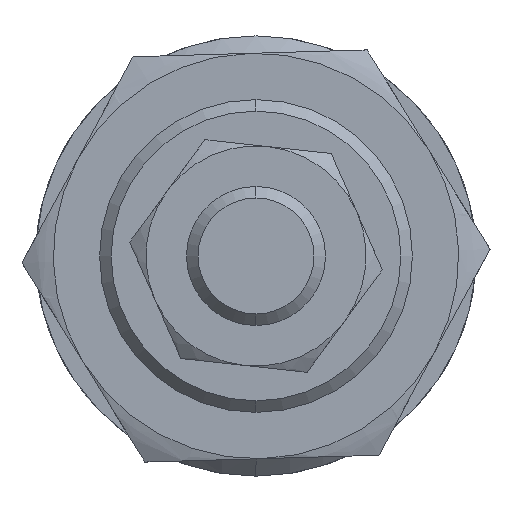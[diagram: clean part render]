
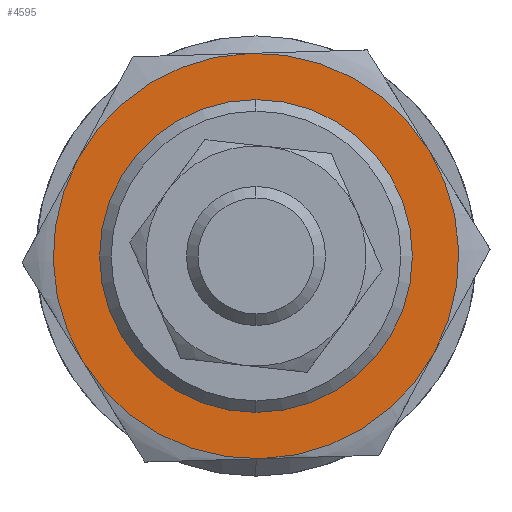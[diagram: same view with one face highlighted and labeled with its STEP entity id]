
A CAD part, left-side view. The second image highlights one B-rep face of the part: STEP entity #4595.
In plain terms, the highlighted planar face has unit normal (-1, 0, 0) as drawn and (0, 0, -1) by its records, which use the part's own axes.
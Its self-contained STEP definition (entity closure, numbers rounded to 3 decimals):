
#1 = DIRECTION ( 'NONE',  ( 0., 0., 1. ) ) ;
#71 = CIRCLE ( 'NONE', #372, 17.5 ) ;
#100 = CARTESIAN_POINT ( 'NONE',  ( 17.5, 0., -5. ) ) ;
#181 = CIRCLE ( 'NONE', #4067, 17.5 ) ;
#309 = VERTEX_POINT ( 'NONE', #1650 ) ;
#349 = ORIENTED_EDGE ( 'NONE', *, *, #3560, .F. ) ;
#372 = AXIS2_PLACEMENT_3D ( 'NONE', #2946, #1030, #2100 ) ;
#454 = CARTESIAN_POINT ( 'NONE',  ( 0., 0., -5. ) ) ;
#466 = DIRECTION ( 'NONE',  ( 0., 0., 1. ) ) ;
#505 = CARTESIAN_POINT ( 'NONE',  ( 8.75, 15.155, -5. ) ) ;
#530 = AXIS2_PLACEMENT_3D ( 'NONE', #2907, #1, #821 ) ;
#596 = CARTESIAN_POINT ( 'NONE',  ( 0., 0., -5. ) ) ;
#812 = DIRECTION ( 'NONE',  ( 1., 0., 0. ) ) ;
#821 = DIRECTION ( 'NONE',  ( 1., 0., 0. ) ) ;
#857 = CIRCLE ( 'NONE', #3472, 17.5 ) ;
#932 = ORIENTED_EDGE ( 'NONE', *, *, #4607, .T. ) ;
#948 = VERTEX_POINT ( 'NONE', #4193 ) ;
#972 = DIRECTION ( 'NONE',  ( 0., 0., 1. ) ) ;
#1030 = DIRECTION ( 'NONE',  ( 0., 0., 1. ) ) ;
#1105 = VERTEX_POINT ( 'NONE', #4289 ) ;
#1164 = AXIS2_PLACEMENT_3D ( 'NONE', #1391, #3206, #3511 ) ;
#1355 = EDGE_CURVE ( 'NONE', #1439, #2008, #4329, .T. ) ;
#1391 = CARTESIAN_POINT ( 'NONE',  ( 0., 0., -5. ) ) ;
#1439 = VERTEX_POINT ( 'NONE', #100 ) ;
#1496 = DIRECTION ( 'NONE',  ( 0., 0., 1. ) ) ;
#1510 = ORIENTED_EDGE ( 'NONE', *, *, #1355, .F. ) ;
#1535 = AXIS2_PLACEMENT_3D ( 'NONE', #2965, #3117, #3900 ) ;
#1592 = ORIENTED_EDGE ( 'NONE', *, *, #4490, .F. ) ;
#1607 = CIRCLE ( 'NONE', #530, 12.5 ) ;
#1614 = VERTEX_POINT ( 'NONE', #2320 ) ;
#1650 = CARTESIAN_POINT ( 'NONE',  ( -8.75, -15.155, -5. ) ) ;
#1726 = EDGE_CURVE ( 'NONE', #948, #2180, #71, .T. ) ;
#1752 = CIRCLE ( 'NONE', #1535, 12.5 ) ;
#1853 = DIRECTION ( 'NONE',  ( 0., 0., 1. ) ) ;
#1920 = CARTESIAN_POINT ( 'NONE',  ( 0., 0., -5. ) ) ;
#1972 = DIRECTION ( 'NONE',  ( 1., 0., 0. ) ) ;
#2008 = VERTEX_POINT ( 'NONE', #505 ) ;
#2024 = EDGE_LOOP ( 'NONE', ( #932, #4015 ) ) ;
#2100 = DIRECTION ( 'NONE',  ( 1., 0., 0. ) ) ;
#2180 = VERTEX_POINT ( 'NONE', #2744 ) ;
#2320 = CARTESIAN_POINT ( 'NONE',  ( -12.5, 0., -5. ) ) ;
#2403 = DIRECTION ( 'NONE',  ( 1., 0., 0. ) ) ;
#2438 = EDGE_CURVE ( 'NONE', #1614, #4135, #1752, .T. ) ;
#2670 = ORIENTED_EDGE ( 'NONE', *, *, #2880, .F. ) ;
#2679 = DIRECTION ( 'NONE',  ( 1., 0., 0. ) ) ;
#2695 = CARTESIAN_POINT ( 'NONE',  ( 0., 0., -5. ) ) ;
#2744 = CARTESIAN_POINT ( 'NONE',  ( -17.5, 0., -5. ) ) ;
#2787 = AXIS2_PLACEMENT_3D ( 'NONE', #596, #972, #812 ) ;
#2788 = AXIS2_PLACEMENT_3D ( 'NONE', #454, #4049, #1972 ) ;
#2880 = EDGE_CURVE ( 'NONE', #2008, #948, #3632, .T. ) ;
#2907 = CARTESIAN_POINT ( 'NONE',  ( 0., 0., -5. ) ) ;
#2946 = CARTESIAN_POINT ( 'NONE',  ( 0., 0., -5. ) ) ;
#2965 = CARTESIAN_POINT ( 'NONE',  ( 0., 0., -5. ) ) ;
#2970 = ORIENTED_EDGE ( 'NONE', *, *, #1726, .F. ) ;
#3036 = FACE_OUTER_BOUND ( 'NONE', #4635, .T. ) ;
#3091 = EDGE_CURVE ( 'NONE', #309, #1105, #181, .T. ) ;
#3117 = DIRECTION ( 'NONE',  ( 0., 0., 1. ) ) ;
#3190 = CARTESIAN_POINT ( 'NONE',  ( 12.5, 0., -5. ) ) ;
#3206 = DIRECTION ( 'NONE',  ( 0., 0., 1. ) ) ;
#3349 = FACE_BOUND ( 'NONE', #2024, .T. ) ;
#3472 = AXIS2_PLACEMENT_3D ( 'NONE', #2695, #1496, #2403 ) ;
#3511 = DIRECTION ( 'NONE',  ( 1., 0., 0. ) ) ;
#3560 = EDGE_CURVE ( 'NONE', #1105, #1439, #857, .T. ) ;
#3632 = CIRCLE ( 'NONE', #2787, 17.5 ) ;
#3848 = CIRCLE ( 'NONE', #1164, 17.5 ) ;
#3900 = DIRECTION ( 'NONE',  ( 1., 0., 0. ) ) ;
#3911 = CARTESIAN_POINT ( 'NONE',  ( 0., 0., -5. ) ) ;
#3918 = DIRECTION ( 'NONE',  ( 1., 0., 0. ) ) ;
#3970 = PLANE ( 'NONE',  #2788 ) ;
#4015 = ORIENTED_EDGE ( 'NONE', *, *, #2438, .T. ) ;
#4049 = DIRECTION ( 'NONE',  ( 0., 0., 1. ) ) ;
#4067 = AXIS2_PLACEMENT_3D ( 'NONE', #3911, #1853, #2679 ) ;
#4135 = VERTEX_POINT ( 'NONE', #3190 ) ;
#4193 = CARTESIAN_POINT ( 'NONE',  ( -8.75, 15.155, -5. ) ) ;
#4289 = CARTESIAN_POINT ( 'NONE',  ( 8.75, -15.155, -5. ) ) ;
#4329 = CIRCLE ( 'NONE', #4696, 17.5 ) ;
#4490 = EDGE_CURVE ( 'NONE', #2180, #309, #3848, .T. ) ;
#4549 = ORIENTED_EDGE ( 'NONE', *, *, #3091, .F. ) ;
#4595 = ADVANCED_FACE ( 'NONE', ( #3349, #3036 ), #3970, .F. ) ;
#4607 = EDGE_CURVE ( 'NONE', #4135, #1614, #1607, .T. ) ;
#4635 = EDGE_LOOP ( 'NONE', ( #1510, #349, #4549, #1592, #2970, #2670 ) ) ;
#4696 = AXIS2_PLACEMENT_3D ( 'NONE', #1920, #466, #3918 ) ;
